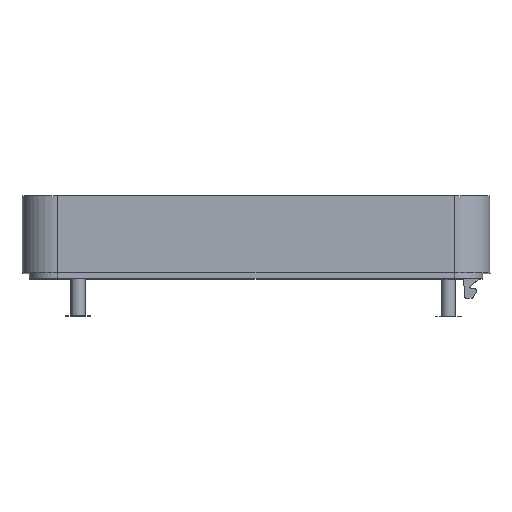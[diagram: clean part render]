
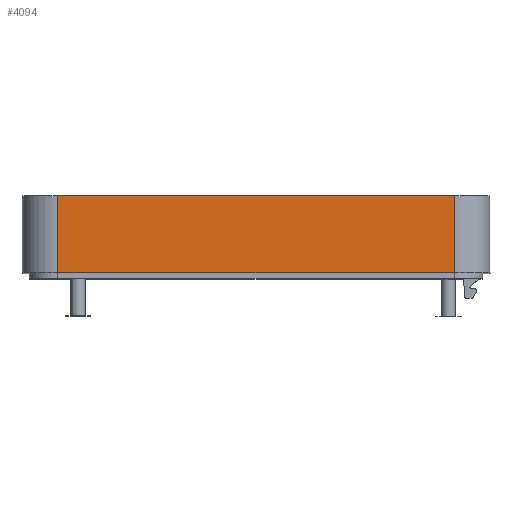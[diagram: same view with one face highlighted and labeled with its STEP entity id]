
A CAD part, top view. The second image highlights one B-rep face of the part: STEP entity #4094.
In plain terms, the highlighted planar face has unit normal (0, 0, 1).
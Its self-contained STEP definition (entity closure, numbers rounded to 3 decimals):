
#341=FACE_OUTER_BOUND('',#582,.T.);
#582=EDGE_LOOP('',(#3183,#3184,#3185,#3186));
#777=LINE('',#6157,#1235);
#831=LINE('',#6766,#1289);
#969=LINE('',#7305,#1427);
#987=LINE('',#7498,#1445);
#1235=VECTOR('',#4597,10.);
#1289=VECTOR('',#4679,10.);
#1427=VECTOR('',#4979,10.);
#1445=VECTOR('',#5019,10.);
#1699=VERTEX_POINT('',#6137);
#1700=VERTEX_POINT('',#6156);
#1748=VERTEX_POINT('',#6746);
#1853=VERTEX_POINT('',#7304);
#2078=EDGE_CURVE('',#1699,#1700,#777,.T.);
#2149=EDGE_CURVE('',#1748,#1700,#831,.T.);
#2319=EDGE_CURVE('',#1853,#1748,#969,.T.);
#2347=EDGE_CURVE('',#1699,#1853,#987,.T.);
#3183=ORIENTED_EDGE('',*,*,#2149,.T.);
#3184=ORIENTED_EDGE('',*,*,#2078,.F.);
#3185=ORIENTED_EDGE('',*,*,#2347,.T.);
#3186=ORIENTED_EDGE('',*,*,#2319,.T.);
#3897=PLANE('',#4353);
#4094=ADVANCED_FACE('',(#341),#3897,.T.);
#4353=AXIS2_PLACEMENT_3D('',#7497,#5017,#5018);
#4597=DIRECTION('',(-1.,0.,0.));
#4679=DIRECTION('',(0.,-1.,0.));
#4979=DIRECTION('',(-1.,0.,0.));
#5017=DIRECTION('center_axis',(0.,0.,
1.));
#5018=DIRECTION('ref_axis',(0.,-1.,0.));
#5019=DIRECTION('',(0.,1.,0.));
#6137=CARTESIAN_POINT('',(-4.795,85.764,46.267));
#6156=CARTESIAN_POINT('',(-88.205,85.764,46.267));
#6157=CARTESIAN_POINT('',(-4.795,85.764,46.267));
#6746=CARTESIAN_POINT('',(-88.205,101.964,46.267));
#6766=CARTESIAN_POINT('',(-88.205,97.914,46.267));
#7304=CARTESIAN_POINT('',(-4.795,101.964,46.267));
#7305=CARTESIAN_POINT('',(-6.625,101.964,46.267));
#7497=CARTESIAN_POINT('Origin',(-89.205,93.864,46.267));
#7498=CARTESIAN_POINT('',(-4.795,85.764,46.267));
